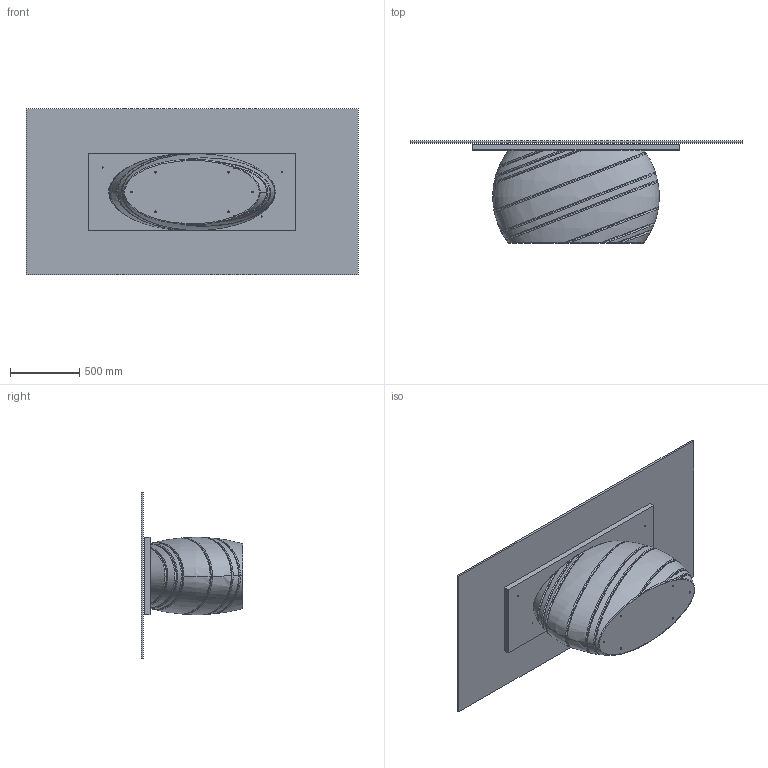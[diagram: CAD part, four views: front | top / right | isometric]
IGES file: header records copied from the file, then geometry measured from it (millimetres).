
Start section: SolidWorks IGES file using analytic representation for surfaces
Global section: file name: Y:\eforma\TECNICO\SOLIDWORKS\E-FORMA\1-TAVOLI\GIOVE\08 modelli 3D web\cri 240x120.IGS; native system: SolidWorks 2022; preprocessor: SolidWorks 2022; author: eforma.tech; date: 250526.160235; units: millimetre
Bounding box: 2400 x 737 x 1200 mm (x, y, z)
Volume: 393289818.3 mm3; surface area: 10480132.8 mm2
Topology: 3 solids, 3 shells, 156 faces, 381 edges, 246 vertices
Faces by surface type: revolution 68, bspline 53, plane 35
